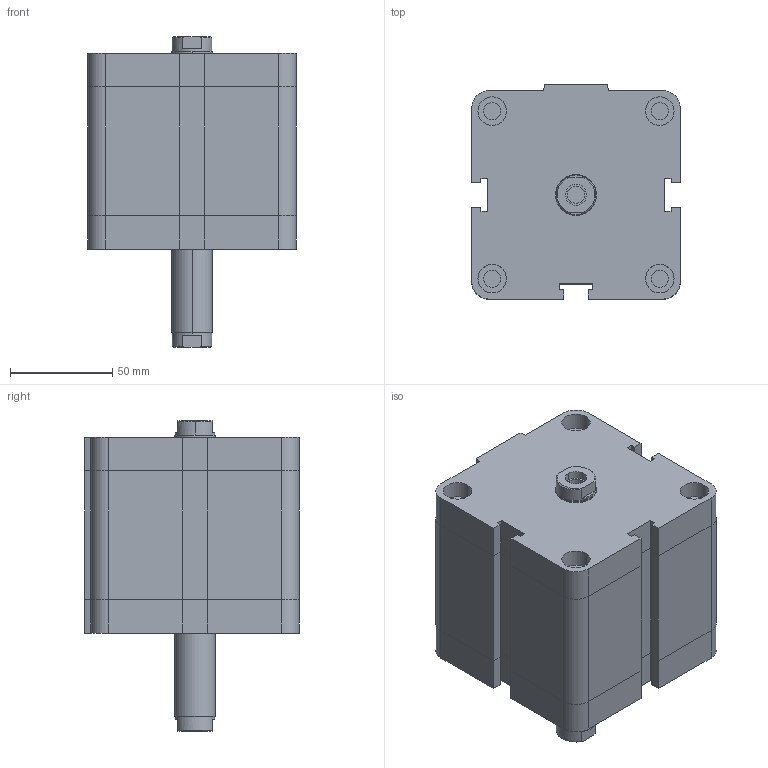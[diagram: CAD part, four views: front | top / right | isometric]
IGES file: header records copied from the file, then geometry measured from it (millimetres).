
Global section: file name: No Iges File Name specified; native system: Autodesk Inventor 2009; preprocessor: AutoDesk Inventor Iges Exporter R2009; author: maffial1; date: 20090420.200619; units: millimetre
Bounding box: 102 x 105 x 152 mm (x, y, z)
Volume: 969443.6 mm3; surface area: 88172.3 mm2
Topology: 2 solids, 2 shells, 202 faces, 450 edges, 274 vertices
Faces by surface type: plane 114, bspline 42, revolution 20, cylinder 18, cone 8
